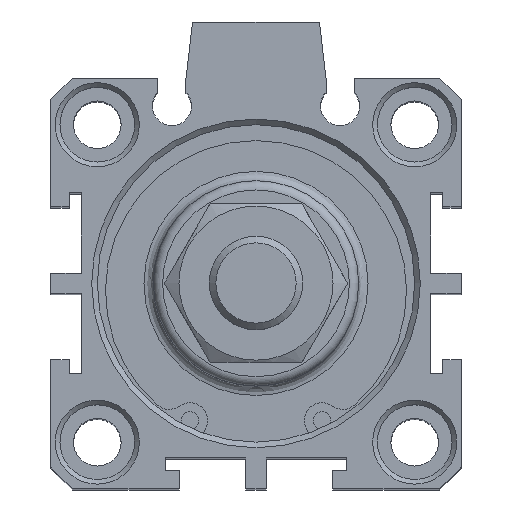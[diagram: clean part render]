
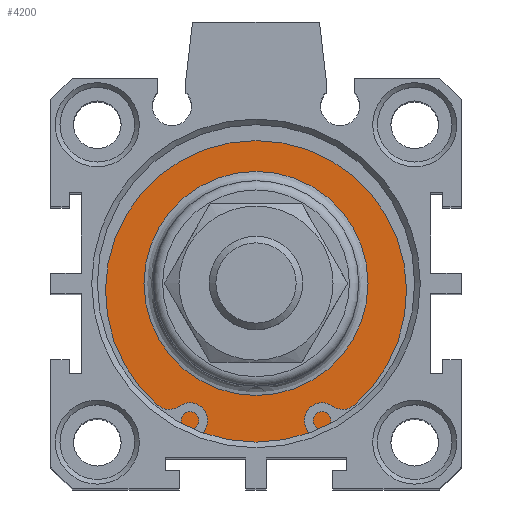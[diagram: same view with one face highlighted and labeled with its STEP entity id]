
A CAD part, top view. The second image highlights one B-rep face of the part: STEP entity #4200.
In plain terms, the highlighted planar face has unit normal (0, 0, 1).
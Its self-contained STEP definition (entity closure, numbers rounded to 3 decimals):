
#4149=CARTESIAN_POINT('',(2.273,12.598,70.8));
#4150=VERTEX_POINT('',#4149);
#4151=CARTESIAN_POINT('',(2.273,0.598,70.8));
#4152=DIRECTION('',(0.0,0.0,1.0));
#4153=DIRECTION('',(0.0,-1.0,0.0));
#4154=AXIS2_PLACEMENT_3D('',#4151,#4152,#4153);
#4155=CIRCLE('',#4154,12.);
#4156=EDGE_CURVE('',#4150,#4150,#4155,.T.);
#4181=CARTESIAN_POINT('',(2.273,14.598,70.8));
#4182=DIRECTION('',(0.0,0.0,1.0));
#4183=DIRECTION('',(1.0,0.0,0.0));
#4184=AXIS2_PLACEMENT_3D('',#4181,#4182,#4183);
#4185=PLANE('',#4184);
#4186=CARTESIAN_POINT('',(2.273,17.598,70.8));
#4187=VERTEX_POINT('',#4186);
#4188=CARTESIAN_POINT('',(2.273,0.598,70.8));
#4189=DIRECTION('',(0.0,0.0,-1.0));
#4190=DIRECTION('',(0.0,1.0,0.0));
#4191=AXIS2_PLACEMENT_3D('',#4188,#4189,#4190);
#4192=CIRCLE('',#4191,17.);
#4193=EDGE_CURVE('',#4187,#4187,#4192,.T.);
#4194=ORIENTED_EDGE('',*,*,#4193,.F.);
#4195=EDGE_LOOP('',(#4194));
#4196=FACE_OUTER_BOUND('',#4195,.T.);
#4197=ORIENTED_EDGE('',*,*,#4156,.F.);
#4198=EDGE_LOOP('',(#4197));
#4199=FACE_BOUND('',#4198,.T.);
#4200=ADVANCED_FACE('',(#4196,#4199),#4185,.T.);
